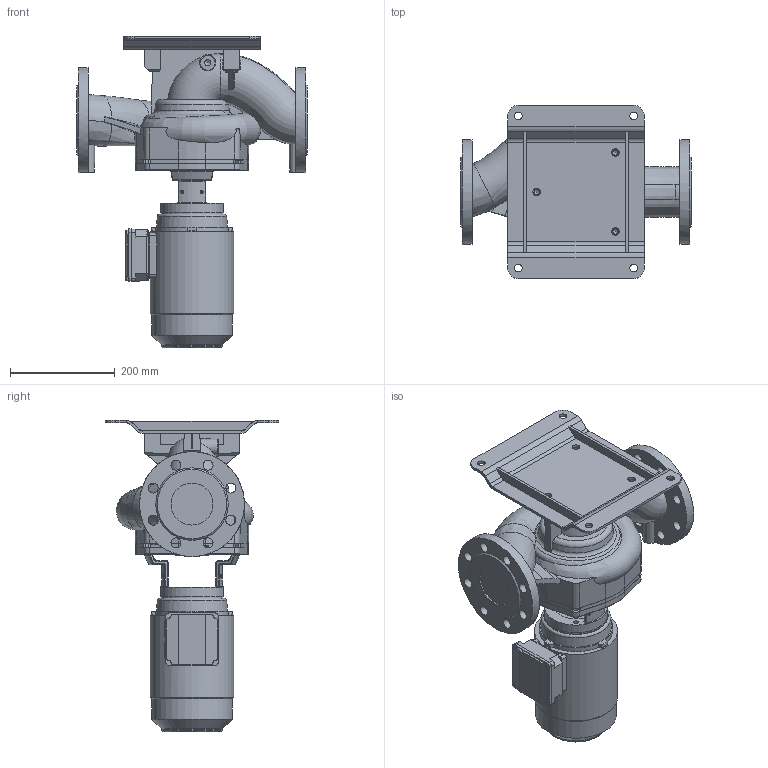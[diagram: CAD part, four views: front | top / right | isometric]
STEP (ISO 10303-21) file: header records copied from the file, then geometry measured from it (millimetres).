
FILE_DESCRIPTION (( 'STEP AP203' ), '1' );
FILE_NAME ('KI80-145_4_0,75kW.STEP', '2024-07-29T10:37:09', ( '' ), ( '' ), 'SwSTEP 2.0', 'SolidWorks 2023', '' );
FILE_SCHEMA (( 'CONFIG_CONTROL_DESIGN' ));
Length unit declared in the file: millimetre
Products named in the file (11): 220544; KI80-145_4_0,75kW; 230407; 230034; 230406; 230033; 230501; 230031; 220542; HMA3_80_2-4_solid; 230500
Assembly tree (11 placements, depth 3):
  KI80-145_4_0,75kW
    HMA3_80_2-4_solid
    230407
      230406
    230501
      230500
    220544
      220542
    230034
      230031
      230033  x2
Bounding box: 440 x 330.18 x 593.95 mm (x, y, z)
Volume: 15401312.7 mm3; surface area: 1044727.9 mm2
Topology: 7 solids, 7 shells, 810 faces, 2111 edges, 1318 vertices
Faces by surface type: plane 275, cylinder 274, bspline 100, cone 78, torus 69, sphere 14
Full cylindrical faces by diameter (mm): 5 x12, 6 x3, 7 x8, 8 x4, 10.2 x7, 11.8 x4, 14 x4, 14.5 x7, 19 x16, 80 x3, 116 x1, 120 x2, 140 x1, 153.6 x1, 158.6 x1, 164 x1, 189 x1, 200 x2
Entity records: 82394 total; most frequent: CARTESIAN_POINT 62928, ORIENTED_EDGE 3836, DIRECTION 3645, EDGE_CURVE 1918, AXIS2_PLACEMENT_3D 1434, VERTEX_POINT 1263, EDGE_LOOP 1023, FACE_OUTER_BOUND 882
